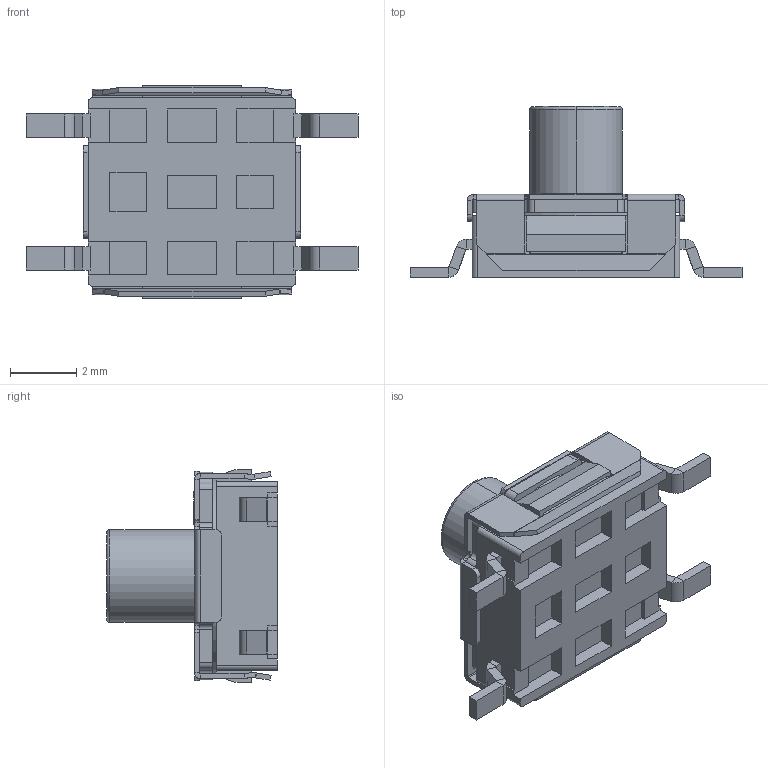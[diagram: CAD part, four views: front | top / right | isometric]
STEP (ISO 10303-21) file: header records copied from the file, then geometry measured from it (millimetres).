
FILE_DESCRIPTION((''),'2;1');
FILE_NAME('ASM0002_ASM','2024-01-06T',('WYH'),(''),'PRO/ENGINEER BY PARAMETRIC TECHNOLOGY CORPORATION, 2013040','PRO/ENGINEER BY PARAMETRIC TECHNOLOGY CORPORATION, 2013040','');
FILE_SCHEMA(('CONFIG_CONTROL_DESIGN'));
Length unit declared in the file: millimetre
Products named in the file (1): ASM0002_ASM
Bounding box: 10 x 5.15 x 6.4 mm (x, y, z)
Volume: 92.3 mm3; surface area: 352.3 mm2
Topology: 1 solids, 2 shells, 484 faces, 1212 edges, 745 vertices
Faces by surface type: plane 330, cylinder 126, bspline 12, torus 8, cone 8
Entity records: 14615 total; most frequent: CARTESIAN_POINT 2954, ORIENTED_EDGE 2420, DIRECTION 2400, EDGE_CURVE 1210, VECTOR 908, LINE 908, AXIS2_PLACEMENT_3D 746, VERTEX_POINT 745
